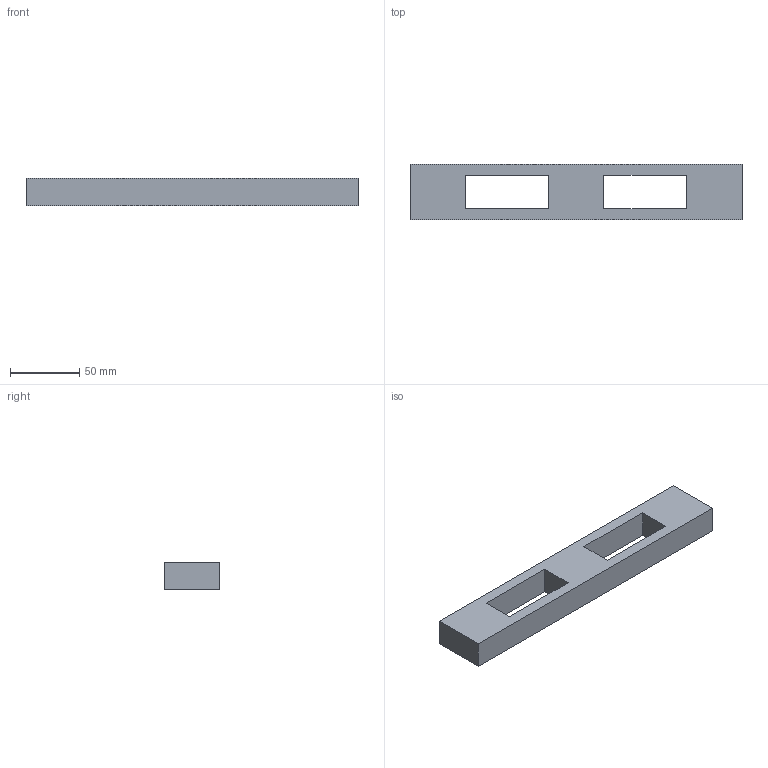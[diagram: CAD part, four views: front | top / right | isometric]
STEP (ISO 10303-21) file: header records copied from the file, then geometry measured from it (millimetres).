
FILE_DESCRIPTION(('Open CASCADE Model'),'2;1');
FILE_NAME('Open CASCADE Shape Model','2026-10-28T04:25:25',('Author'),( 'Open CASCADE'),'Open CASCADE STEP processor 7.8','Open CASCADE 7.8' ,'Unknown');
FILE_SCHEMA(('AUTOMOTIVE_DESIGN { 1 0 10303 214 1 1 1 1 }'));
Length unit declared in the file: millimetre
Products named in the file (1): Open CASCADE STEP translator 7.8 2
Bounding box: 240 x 40 x 20 mm (x, y, z)
Volume: 134400 mm3; surface area: 31360 mm2
Topology: 1 solids, 1 shells, 14 faces, 36 edges, 24 vertices
Faces by surface type: plane 14
Entity records: 906 total; most frequent: CARTESIAN_POINT 147, DIRECTION 138, LINE 108, VECTOR 108, ORIENTED_EDGE 72, PCURVE 72, DEFINITIONAL_REPRESENTATION 72, EDGE_CURVE 36
